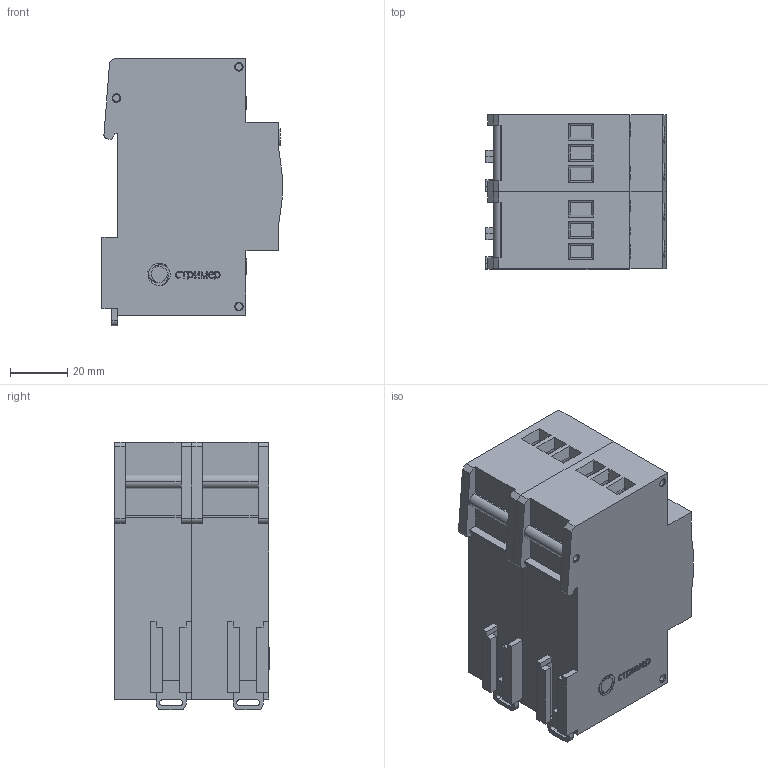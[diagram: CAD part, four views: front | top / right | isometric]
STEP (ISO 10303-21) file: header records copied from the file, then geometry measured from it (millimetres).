
FILE_DESCRIPTION(('TFLEX Exchange Step'),'2;1');
FILE_NAME('X2\041004400442\X0\.134.001.stp', '2022-07-15T15:46:31+03:00',('Pavel Oborin'),('Unknown organisation'),'TFLEX Exchange 2019.2','T-FLEX CAD','Unknown authorisation');
FILE_SCHEMA( ('AUTOMOTIVE_DESIGN { 1 0 10303 214 1 1 1 1 }') );
Length unit declared in the file: millimetre
Products named in the file (8): 0; Арт.134.101 с двумя отверстиями:22; Арт.134.101 с двумя отверстиями; Тело_8 - Линейный массив_1:3; Тело_8 - Линейный массив_1:2; Тело_8 - Линейный массив_1:1; <Винты нормальные>Винт ГОСТ Р ИСО 1207:3; Арт.134.001
Assembly tree (11 placements, depth 3):
  Арт.134.001
    0
    Арт.134.101 с двумя отверстиями
      Арт.134.101 с двумя отверстиями:22  x3
    Тело_8 - Линейный массив_1:3
    Тело_8 - Линейный массив_1:2
    Тело_8 - Линейный массив_1:1
    <Винты нормальные>Винт ГОСТ Р ИСО 1207:3  x3
Bounding box: 63.17 x 54.2 x 93.75 mm (x, y, z)
Volume: 248959.7 mm3; surface area: 44976.4 mm2
Topology: 76 solids, 80 shells, 1054 faces, 2514 edges, 1656 vertices
Faces by surface type: plane 649, bspline 195, cylinder 156, torus 36, cone 18
Entity records: 33414 total; most frequent: CARTESIAN_POINT 11168, ORIENTED_EDGE 4748, DIRECTION 3952, EDGE_CURVE 2374, VERTEX_POINT 1564, VECTOR 1542, LINE 1542, AXIS2_PLACEMENT_3D 1205
